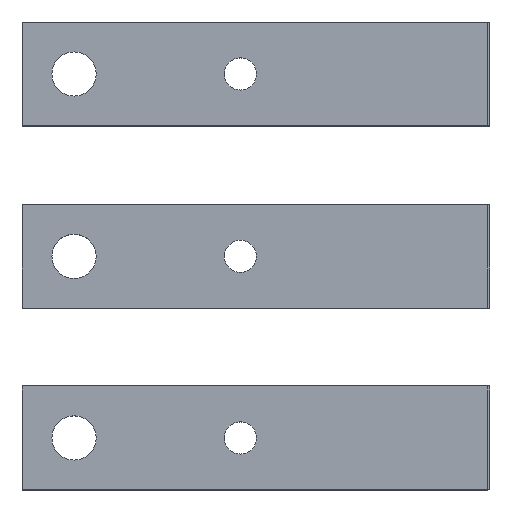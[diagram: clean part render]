
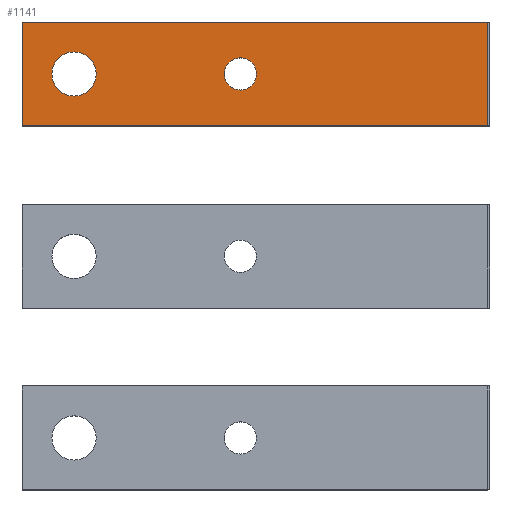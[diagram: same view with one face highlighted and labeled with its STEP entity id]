
A CAD part, top view. The second image highlights one B-rep face of the part: STEP entity #1141.
In plain terms, the highlighted planar face has unit normal (0, 0, 1).
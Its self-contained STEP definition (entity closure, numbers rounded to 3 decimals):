
#346=CARTESIAN_POINT(' ',(-39.25,0.,0.));
#347=VERTEX_POINT(' ',#346);
#361=CARTESIAN_POINT(' ',(-35.,0.,0.));
#366=DIRECTION(' ',(0.,-0.,1.));
#371=DIRECTION(' ',(-1.,0.,0.));
#376=AXIS2_PLACEMENT_3D(' ',#361,#366,#371);
#381=CIRCLE('',#376,4.25);
#386=CARTESIAN_POINT(' ',(-30.75,0.,0.));
#387=VERTEX_POINT(' ',#386);
#391=EDGE_CURVE(' ',#347,#387,#381,.T.);
#806=CARTESIAN_POINT(' ',(-35.,0.,0.));
#811=DIRECTION(' ',(0.,0.,1.));
#816=DIRECTION(' ',(1.,0.,0.));
#821=AXIS2_PLACEMENT_3D(' ',#806,#811,#816);
#826=CIRCLE('',#821,4.25);
#831=EDGE_CURVE(' ',#387,#347,#826,.T.);
#856=DIRECTION(' ',(-0.,0.,1.));
#861=CARTESIAN_POINT(' ',(-45.,-10.,0.));
#866=DIRECTION(' ',(1.,0.,0.));
#871=AXIS2_PLACEMENT_3D(' ',#861,#856,#866);
#876=PLANE('NONE',#871);
#881=CARTESIAN_POINT(' ',(-45.,-10.,0.));
#886=DIRECTION(' ',(1.,0.,0.));
#891=VECTOR(' ',#886,1.);
#896=LINE('',#881,#891);
#901=CARTESIAN_POINT(' ',(-45.,-10.,0.));
#902=VERTEX_POINT(' ',#901);
#906=CARTESIAN_POINT(' ',(44.5,-10.,0.));
#907=VERTEX_POINT(' ',#906);
#911=EDGE_CURVE(' ',#902,#907,#896,.T.);
#916=ORIENTED_EDGE(' ',*,*,#911,.T.);
#921=CARTESIAN_POINT(' ',(44.5,-10.,0.));
#926=DIRECTION(' ',(0.,1.,0.));
#931=VECTOR(' ',#926,1.);
#936=LINE('',#921,#931);
#941=CARTESIAN_POINT(' ',(44.5,10.,0.));
#942=VERTEX_POINT(' ',#941);
#946=EDGE_CURVE(' ',#907,#942,#936,.T.);
#951=ORIENTED_EDGE(' ',*,*,#946,.T.);
#956=CARTESIAN_POINT(' ',(44.5,10.,0.));
#961=DIRECTION(' ',(-1.,0.,0.));
#966=VECTOR(' ',#961,1.);
#971=LINE('',#956,#966);
#976=CARTESIAN_POINT(' ',(-45.,10.,0.));
#977=VERTEX_POINT(' ',#976);
#981=EDGE_CURVE(' ',#942,#977,#971,.T.);
#986=ORIENTED_EDGE(' ',*,*,#981,.T.);
#991=CARTESIAN_POINT(' ',(-45.,10.,0.));
#996=DIRECTION(' ',(0.,-1.,0.));
#1001=VECTOR(' ',#996,1.);
#1006=LINE('',#991,#1001);
#1011=EDGE_CURVE(' ',#977,#902,#1006,.T.);
#1016=ORIENTED_EDGE(' ',*,*,#1011,.T.);
#1021=EDGE_LOOP(' ',(#916,#951,#986,#1016));
#1026=FACE_OUTER_BOUND(' ',#1021,.T.);
#1031=ORIENTED_EDGE(' ',*,*,#831,.F.);
#1036=ORIENTED_EDGE(' ',*,*,#391,.F.);
#1041=EDGE_LOOP(' ',(#1031,#1036));
#1046=FACE_BOUND(' ',#1041,.T.);
#1051=CARTESIAN_POINT(' ',(-3.,0.,0.));
#1056=DIRECTION(' ',(0.,0.,1.));
#1061=DIRECTION(' ',(1.,0.,0.));
#1066=AXIS2_PLACEMENT_3D(' ',#1051,#1056,#1061);
#1071=CIRCLE('',#1066,3.1);
#1076=CARTESIAN_POINT(' ',(0.1,0.,0.));
#1077=VERTEX_POINT(' ',#1076);
#1081=CARTESIAN_POINT(' ',(-6.1,0.,0.));
#1082=VERTEX_POINT(' ',#1081);
#1086=EDGE_CURVE(' ',#1077,#1082,#1071,.T.);
#1091=ORIENTED_EDGE(' ',*,*,#1086,.F.);
#1096=CARTESIAN_POINT(' ',(-3.,0.,0.));
#1101=DIRECTION(' ',(0.,-0.,1.));
#1106=DIRECTION(' ',(-1.,0.,0.));
#1111=AXIS2_PLACEMENT_3D(' ',#1096,#1101,#1106);
#1116=CIRCLE('',#1111,3.1);
#1121=EDGE_CURVE(' ',#1082,#1077,#1116,.T.);
#1126=ORIENTED_EDGE(' ',*,*,#1121,.F.);
#1131=EDGE_LOOP(' ',(#1091,#1126));
#1136=FACE_BOUND(' ',#1131,.T.);
#1141=ADVANCED_FACE('NONE',(#1026,#1046,#1136),#876,.T.);
